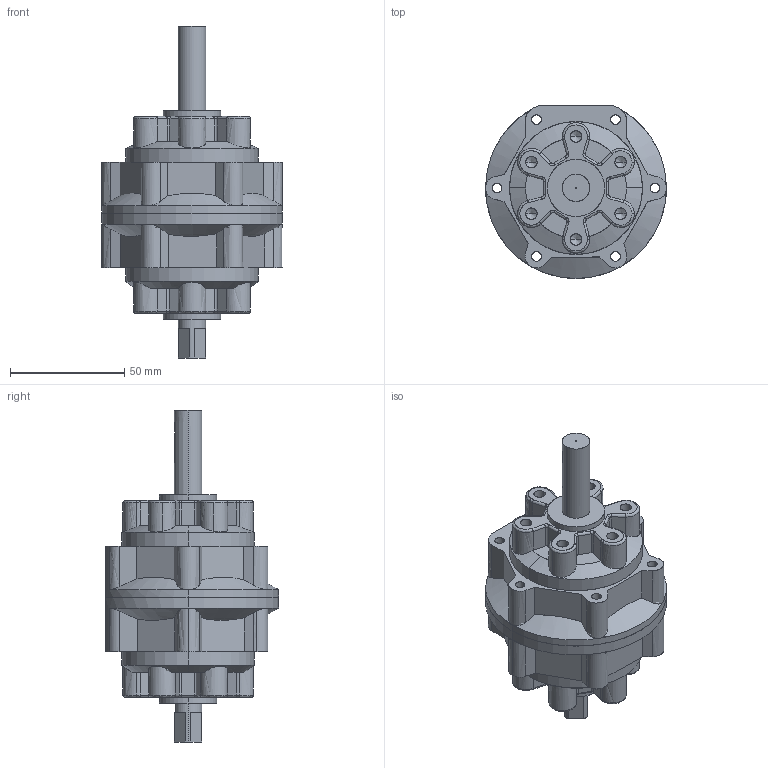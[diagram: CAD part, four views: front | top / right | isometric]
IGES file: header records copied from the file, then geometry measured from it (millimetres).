
Start section: SolidWorks IGES file using analytic representation for surfaces
Global section: file name: C:\Users\Chieh_Lu\Dropbox\¤u§@«Ç\PRN50-150-300-800\PRN50\PRN50\PRN50.IGS; native system: SolidWorks 2014; preprocessor: SolidWorks 2014; author: Chieh_Lu; date: 160115.003903; units: millimetre
Bounding box: 79 x 75.59 x 145 mm (x, y, z)
Surface area: 60126.9 mm2 (no closed solid volume)
Topology: 0 solids, 0 shells, 497 faces, 6295 edges, 6267 vertices
Faces by surface type: revolution 261, bspline 236
